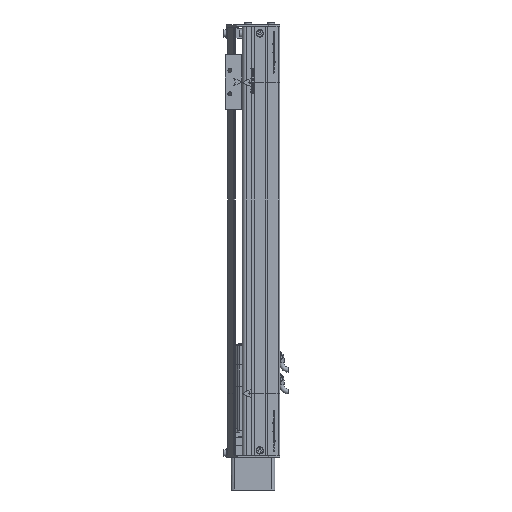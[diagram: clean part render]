
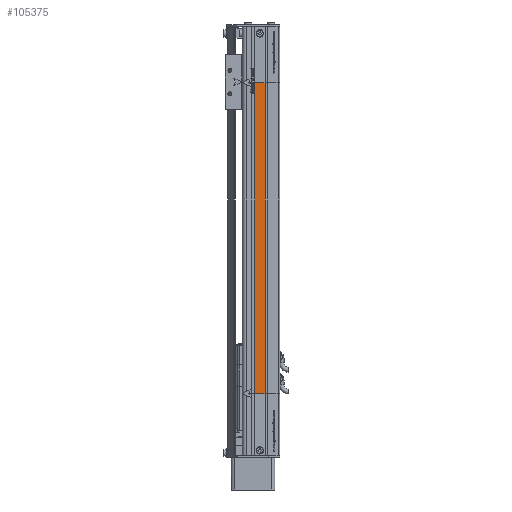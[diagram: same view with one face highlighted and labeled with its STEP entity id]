
A CAD part, left-side view. The second image highlights one B-rep face of the part: STEP entity #105375.
In plain terms, the highlighted planar face has unit normal (-1, 0, 0).
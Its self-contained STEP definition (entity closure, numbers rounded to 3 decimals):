
#34958 = VERTEX_POINT ( 'NONE', #75845 ) ;
#34968 = EDGE_CURVE ( 'NONE', #35703, #34958, #75827, .T. ) ;
#35703 = VERTEX_POINT ( 'NONE', #77735 ) ;
#37314 = EDGE_CURVE ( 'NONE', #37534, #37460, #86294, .T. ) ;
#37460 = VERTEX_POINT ( 'NONE', #86525 ) ;
#37534 = VERTEX_POINT ( 'NONE', #83822 ) ;
#75823 = DIRECTION ( 'NONE',  ( 0., -1., 0. ) ) ;
#75824 = VECTOR ( 'NONE', #75823, 1000. ) ;
#75826 = CARTESIAN_POINT ( 'NONE',  ( -35., -2.25, 400. ) ) ;
#75827 = LINE ( 'NONE', #75826, #75824 ) ;
#75845 = CARTESIAN_POINT ( 'NONE',  ( -35., -15.75, 400. ) ) ;
#77735 = CARTESIAN_POINT ( 'NONE',  ( -35., -2.25, 400. ) ) ;
#83822 = CARTESIAN_POINT ( 'NONE',  ( -35., -2.25, 0. ) ) ;
#86290 = DIRECTION ( 'NONE',  ( 0., -1., 0. ) ) ;
#86291 = VECTOR ( 'NONE', #86290, 1000. ) ;
#86292 = CARTESIAN_POINT ( 'NONE',  ( -35., -2.25, 0. ) ) ;
#86294 = LINE ( 'NONE', #86292, #86291 ) ;
#86525 = CARTESIAN_POINT ( 'NONE',  ( -35., -15.75, 0. ) ) ;
#89322 = DIRECTION ( 'NONE',  ( 0., 0., -1. ) ) ;
#89324 = VECTOR ( 'NONE', #89322, 1000. ) ;
#89329 = CARTESIAN_POINT ( 'NONE',  ( -35., -2.25, 400. ) ) ;
#89330 = LINE ( 'NONE', #89329, #89324 ) ;
#104886 = EDGE_LOOP ( 'NONE', ( #104956, #105370, #105429, #104889 ) ) ;
#104888 = EDGE_CURVE ( 'NONE', #35703, #37534, #89330, .T. ) ;
#104889 = ORIENTED_EDGE ( 'NONE', *, *, #104888, .T. ) ;
#104956 = ORIENTED_EDGE ( 'NONE', *, *, #37314, .T. ) ;
#105370 = ORIENTED_EDGE ( 'NONE', *, *, #105384, .F. ) ;
#105375 = ADVANCED_FACE ( 'NONE', ( #109146 ), #108747, .F. ) ;
#105384 = EDGE_CURVE ( 'NONE', #34958, #37460, #108841, .T. ) ;
#105429 = ORIENTED_EDGE ( 'NONE', *, *, #34968, .F. ) ;
#108747 = PLANE ( 'NONE',  #109281 ) ;
#108836 = DIRECTION ( 'NONE',  ( 0., 0., -1. ) ) ;
#108838 = VECTOR ( 'NONE', #108836, 1000. ) ;
#108839 = CARTESIAN_POINT ( 'NONE',  ( -35., -15.75, 400. ) ) ;
#108841 = LINE ( 'NONE', #108839, #108838 ) ;
#108857 = DIRECTION ( 'NONE',  ( 0., 1., 0. ) ) ;
#108860 = DIRECTION ( 'NONE',  ( 1., 0., 0. ) ) ;
#108862 = CARTESIAN_POINT ( 'NONE',  ( -35., -2.25, 400. ) ) ;
#109146 = FACE_OUTER_BOUND ( 'NONE', #104886, .T. ) ;
#109281 = AXIS2_PLACEMENT_3D ( 'NONE', #108862, #108860, #108857 ) ;
